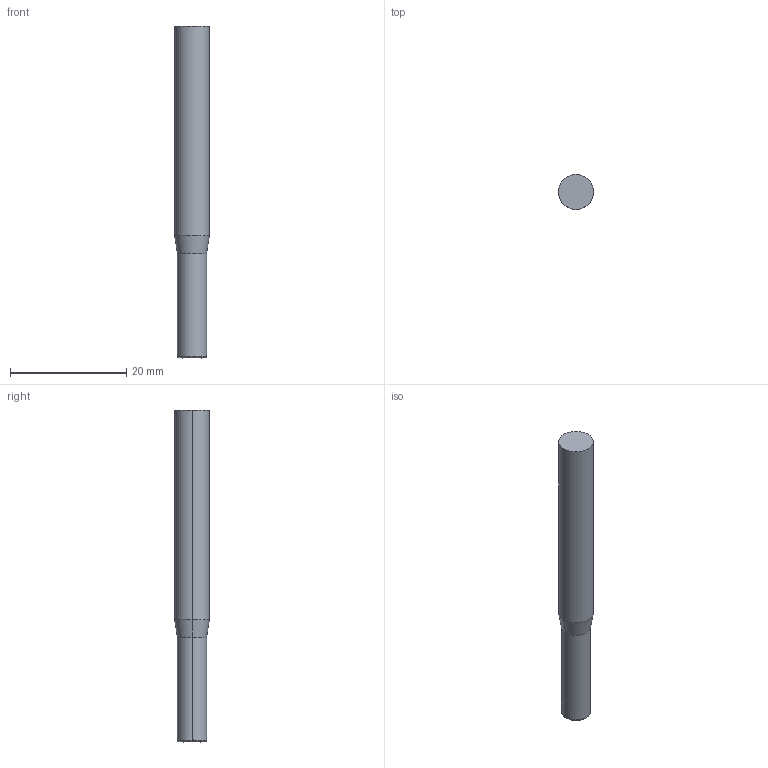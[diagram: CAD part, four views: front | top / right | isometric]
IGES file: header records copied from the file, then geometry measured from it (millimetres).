
Start section: 3D InterOp IGES (v. 2020 1.0.1), Spatial Corp. Copyright (c) 1999-2017.
Global section: file name: WZF17576_5_0.3.igs; native system: Spatial Corp.; preprocessor: 3D InterOp GENERIC/IGES 3.0; author: Noname; organization: Noname; date: 20201007.092809; units: metre
Bounding box: 6 x 6 x 57 mm (x, y, z)
Surface area: 1097.7 mm2 (no closed solid volume)
Topology: 0 solids, 0 shells, 10 faces, 40 edges, 38 vertices
Faces by surface type: revolution 8, extrusion 2
